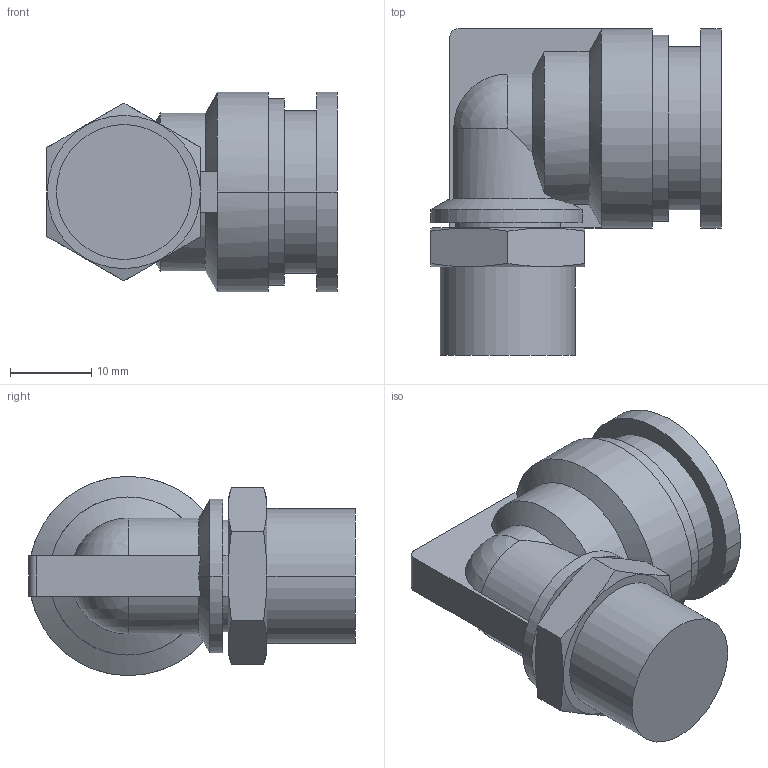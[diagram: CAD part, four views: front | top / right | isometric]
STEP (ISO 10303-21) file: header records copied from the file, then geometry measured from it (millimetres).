
FILE_DESCRIPTION( ( '' ), '1' );
FILE_NAME( 'G:/SMC狟婥/KQ2L16-03AS.stp', '2023-03-07T03:08:25', ( '' ), ( '' ), ' ', ' ', ' ' );
FILE_SCHEMA( ( 'CONFIG_CONTROL_DESIGN' ) );
Length unit declared in the file: millimetre
Products named in the file (1): 1
Bounding box: 35.8 x 40.3 x 24.6 mm (x, y, z)
Volume: 11534.5 mm3; surface area: 5937.5 mm2
Topology: 1 solids, 1 shells, 64 faces, 162 edges, 103 vertices
Faces by surface type: plane 29, cylinder 23, cone 10, sphere 2
Entity records: 1962 total; most frequent: CARTESIAN_POINT 426, ORIENTED_EDGE 320, DIRECTION 316, EDGE_CURVE 160, AXIS2_PLACEMENT_3D 125, VERTEX_POINT 103, EDGE_LOOP 69, LINE 66
